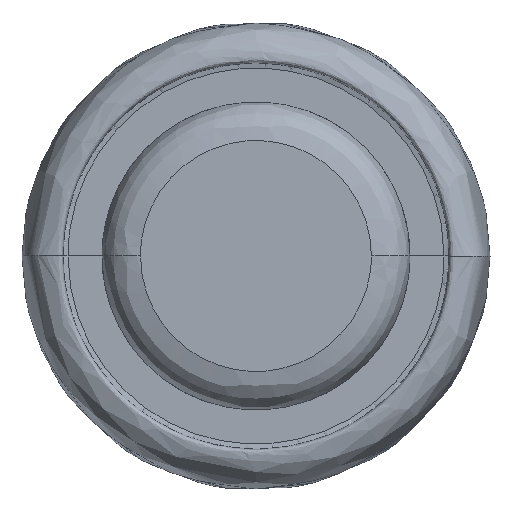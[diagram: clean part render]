
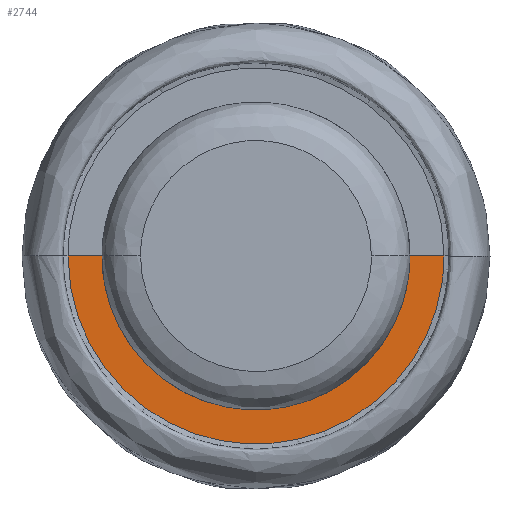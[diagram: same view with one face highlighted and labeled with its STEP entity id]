
A CAD part, front view. The second image highlights one B-rep face of the part: STEP entity #2744.
In plain terms, the highlighted free-form (B-spline) face has degree [3, 2] with [4, 9] control points.
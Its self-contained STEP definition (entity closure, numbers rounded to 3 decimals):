
#18 = CARTESIAN_POINT ( 'NONE',  ( -105., -10., 531. ) ) ;
#201 = CARTESIAN_POINT ( 'NONE',  ( -115., 10., 531. ) ) ;
#316 = CARTESIAN_POINT ( 'NONE',  ( -144.232, 0., 531. ) ) ;
#1778 = CARTESIAN_POINT ( 'NONE',  ( -202.696, 0., 531. ) ) ;
#2151 = CARTESIAN_POINT ( 'NONE',  ( -105., -10., 531. ) ) ;
#2289 =( BOUNDED_CURVE ( )  B_SPLINE_CURVE ( 2, ( #15456, #9875, #13525, #12063, #13647 ),
 .UNSPECIFIED., .F., .F. ) 
 B_SPLINE_CURVE_WITH_KNOTS ( ( 3, 2, 3 ),
 ( 382.21, 573.315, 764.42 ),
 .UNSPECIFIED. ) 
 CURVE ( )  GEOMETRIC_REPRESENTATION_ITEM ( )  RATIONAL_B_SPLINE_CURVE ( ( 1., 0.707, 1., 0.707, 1. ) ) 
 REPRESENTATION_ITEM ( '' )  );
#2384 = CARTESIAN_POINT ( 'NONE',  ( -173.464, 0., 531. ) ) ;
#2744 = ADVANCED_FACE ( 'NONE', ( #14928 ), #23370, .T. ) ;
#3499 = CARTESIAN_POINT ( 'NONE',  ( -36.536, -68.464, 531. ) ) ;
#3618 = CARTESIAN_POINT ( 'NONE',  ( -105., -39.232, 531. ) ) ;
#3738 = CARTESIAN_POINT ( 'NONE',  ( -105., 97.696, 531. ) ) ;
#3852 = CARTESIAN_POINT ( 'NONE',  ( -7.304, -97.696, 531. ) ) ;
#3864 = CARTESIAN_POINT ( 'NONE',  ( -95., 0., 531. ) ) ;
#3968 = CARTESIAN_POINT ( 'NONE',  ( -144.232, 39.232, 531. ) ) ;
#4101 = VERTEX_POINT ( 'NONE', #8398 ) ;
#5062 = EDGE_CURVE ( 'NONE', #4101, #12723, #2289, .T. ) ;
#5117 = CARTESIAN_POINT ( 'NONE',  ( -95., 0., 531. ) ) ;
#5228 = CARTESIAN_POINT ( 'NONE',  ( -7.304, 0., 531. ) ) ;
#5424 = CARTESIAN_POINT ( 'NONE',  ( -36.536, 0., 531. ) ) ;
#5657 = CARTESIAN_POINT ( 'NONE',  ( -7.304, 0., 531. ) ) ;
#5785 = CARTESIAN_POINT ( 'NONE',  ( -115., 0., 531. ) ) ;
#6358 = CARTESIAN_POINT ( 'NONE',  ( -202.696, 0., 531. ) ) ;
#7263 = CARTESIAN_POINT ( 'NONE',  ( -65.768, 0., 531. ) ) ;
#7892 = CARTESIAN_POINT ( 'NONE',  ( -95., 0., 531. ) ) ;
#8158 = CARTESIAN_POINT ( 'NONE',  ( -115., 0., 531. ) ) ;
#8398 = CARTESIAN_POINT ( 'NONE',  ( -7.304, 0., 531. ) ) ;
#8605 = ORIENTED_EDGE ( 'NONE', *, *, #18827, .F. ) ;
#9218 = CARTESIAN_POINT ( 'NONE',  ( -105., -97.696, 531. ) ) ;
#9276 = CARTESIAN_POINT ( 'NONE',  ( -115., 0., 531. ) ) ;
#9875 = CARTESIAN_POINT ( 'NONE',  ( -7.304, -97.696, 531. ) ) ;
#10913 = CARTESIAN_POINT ( 'NONE',  ( -173.464, -68.464, 531. ) ) ;
#11034 = CARTESIAN_POINT ( 'NONE',  ( -105., 10., 531. ) ) ;
#11156 = CARTESIAN_POINT ( 'NONE',  ( -7.304, 97.696, 531. ) ) ;
#11325 =( BOUNDED_CURVE ( )  B_SPLINE_CURVE ( 2, ( #9276, #16656, #18, #14378, #5117 ),
 .UNSPECIFIED., .F., .F. ) 
 B_SPLINE_CURVE_WITH_KNOTS ( ( 3, 2, 3 ),
 ( 0., 0.5, 1. ),
 .UNSPECIFIED. ) 
 CURVE ( )  GEOMETRIC_REPRESENTATION_ITEM ( )  RATIONAL_B_SPLINE_CURVE ( ( 1., 0.707, 1., 0.707, 1. ) ) 
 REPRESENTATION_ITEM ( '' )  );
#11396 = CARTESIAN_POINT ( 'NONE',  ( -144.232, 0., 531. ) ) ;
#12063 = CARTESIAN_POINT ( 'NONE',  ( -202.696, -97.696, 531. ) ) ;
#12723 = VERTEX_POINT ( 'NONE', #6358 ) ;
#12737 = CARTESIAN_POINT ( 'NONE',  ( -173.464, 68.464, 531. ) ) ;
#12864 = CARTESIAN_POINT ( 'NONE',  ( -115., 0., 531. ) ) ;
#12920 = CARTESIAN_POINT ( 'NONE',  ( -65.768, 0., 531. ) ) ;
#13094 = CARTESIAN_POINT ( 'NONE',  ( -105., -68.464, 531. ) ) ;
#13216 = CARTESIAN_POINT ( 'NONE',  ( -95., 0., 531. ) ) ;
#13525 = CARTESIAN_POINT ( 'NONE',  ( -105., -97.696, 531. ) ) ;
#13647 = CARTESIAN_POINT ( 'NONE',  ( -202.696, 0., 531. ) ) ;
#14378 = CARTESIAN_POINT ( 'NONE',  ( -95., -10., 531. ) ) ;
#14810 = CARTESIAN_POINT ( 'NONE',  ( -173.464, 0., 531. ) ) ;
#14928 = FACE_OUTER_BOUND ( 'NONE', #23394, .T. ) ;
#15027 = CARTESIAN_POINT ( 'NONE',  ( -115., 0., 531. ) ) ;
#15033 = CARTESIAN_POINT ( 'NONE',  ( -95., 10., 531. ) ) ;
#15456 = CARTESIAN_POINT ( 'NONE',  ( -7.304, 0., 531. ) ) ;
#16602 = CARTESIAN_POINT ( 'NONE',  ( -202.696, -97.696, 531. ) ) ;
#16656 = CARTESIAN_POINT ( 'NONE',  ( -115., -10., 531. ) ) ;
#16716 = CARTESIAN_POINT ( 'NONE',  ( -202.696, 0., 531. ) ) ;
#16945 = CARTESIAN_POINT ( 'NONE',  ( -65.768, -39.232, 531. ) ) ;
#18408 = CARTESIAN_POINT ( 'NONE',  ( -144.232, -39.232, 531. ) ) ;
#18526 = CARTESIAN_POINT ( 'NONE',  ( -105., 39.232, 531. ) ) ;
#18759 = CARTESIAN_POINT ( 'NONE',  ( -95., -10., 531. ) ) ;
#18827 = EDGE_CURVE ( 'NONE', #23215, #12723, #21181, .T. ) ;
#18988 = CARTESIAN_POINT ( 'NONE',  ( -144.232, 0., 531. ) ) ;
#19729 = VERTEX_POINT ( 'NONE', #3864 ) ;
#20119 = CARTESIAN_POINT ( 'NONE',  ( -105., 68.464, 531. ) ) ;
#20358 = CARTESIAN_POINT ( 'NONE',  ( -202.696, 97.696, 531. ) ) ;
#20802 = EDGE_CURVE ( 'NONE', #23215, #19729, #11325, .T. ) ;
#20829 = ORIENTED_EDGE ( 'NONE', *, *, #20802, .T. ) ;
#21181 = B_SPLINE_CURVE_WITH_KNOTS ( 'NONE', 3,
 ( #15027, #18988, #2384, #22428 ),
 .UNSPECIFIED., .F., .F.,
 ( 4, 4 ),
 ( -499.545, -328.175 ),
 .UNSPECIFIED. ) ;
#21623 = B_SPLINE_CURVE_WITH_KNOTS ( 'NONE', 3,
 ( #7892, #12920, #23830, #5228 ),
 .UNSPECIFIED., .F., .F.,
 ( 4, 4 ),
 ( -499.545, -328.175 ),
 .UNSPECIFIED. ) ;
#21923 = ORIENTED_EDGE ( 'NONE', *, *, #5062, .T. ) ;
#22081 = CARTESIAN_POINT ( 'NONE',  ( -36.536, 68.464, 531. ) ) ;
#22202 = CARTESIAN_POINT ( 'NONE',  ( -173.464, 0., 531. ) ) ;
#22428 = CARTESIAN_POINT ( 'NONE',  ( -202.696, 0., 531. ) ) ;
#22439 = EDGE_CURVE ( 'NONE', #19729, #4101, #21623, .T. ) ;
#22556 = CARTESIAN_POINT ( 'NONE',  ( -65.768, 39.232, 531. ) ) ;
#23215 = VERTEX_POINT ( 'NONE', #8158 ) ;
#23370 =( BOUNDED_SURFACE ( )  B_SPLINE_SURFACE ( 3, 2, ( 
 ( #5785, #201, #11034, #15033, #13216, #18759, #2151, #23896, #12864 ),
 ( #11396, #3968, #18526, #22556, #7263, #16945, #3618, #18408, #316 ),
 ( #14810, #12737, #20119, #22081, #5424, #3499, #13094, #10913, #22202 ),
 ( #1778, #20358, #3738, #11156, #5657, #3852, #9218, #16602, #16716 ) ),
 .UNSPECIFIED., .F., .T., .F. ) 
 B_SPLINE_SURFACE_WITH_KNOTS ( ( 4, 4 ),
 ( 3, 2, 2, 2, 3 ),
 ( -499.545, -328.175 ),
 ( 0., 191.105, 382.21, 573.315, 764.42 ),
 .UNSPECIFIED. ) 
 GEOMETRIC_REPRESENTATION_ITEM ( )  RATIONAL_B_SPLINE_SURFACE ( (
 ( 1., 0.707, 1., 0.707, 1., 0.707, 1., 0.707, 1.),
 ( 1., 0.707, 1., 0.707, 1., 0.707, 1., 0.707, 1.),
 ( 1., 0.707, 1., 0.707, 1., 0.707, 1., 0.707, 1.),
 ( 1., 0.707, 1., 0.707, 1., 0.707, 1., 0.707, 1.) ) ) 
 REPRESENTATION_ITEM ( '' )  SURFACE ( )  );
#23394 = EDGE_LOOP ( 'NONE', ( #20829, #23844, #21923, #8605 ) ) ;
#23830 = CARTESIAN_POINT ( 'NONE',  ( -36.536, 0., 531. ) ) ;
#23844 = ORIENTED_EDGE ( 'NONE', *, *, #22439, .T. ) ;
#23896 = CARTESIAN_POINT ( 'NONE',  ( -115., -10., 531. ) ) ;
